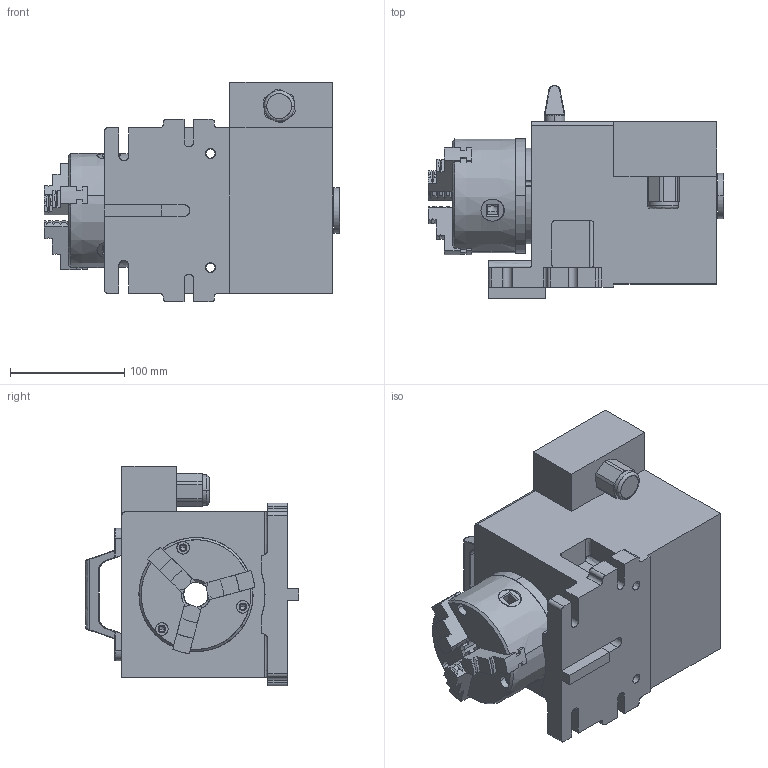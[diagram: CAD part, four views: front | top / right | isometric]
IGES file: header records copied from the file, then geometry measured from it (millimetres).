
Start section: SolidWorks IGES file using analytic representation for surfaces
Global section: file name: C:\Tormach Vault\Accesories\100mm 4th Axis\MicroArc_Simplified_Model.IGS; native system: SolidWorks 2016; preprocessor: SolidWorks 2016; author: cbailey; date: 210119.150043; units: millimetre
Bounding box: 258.58 x 187 x 192.5 mm (x, y, z)
Surface area: 273784.4 mm2 (no closed solid volume)
Topology: 0 solids, 0 shells, 467 faces, 10755 edges, 13293 vertices
Faces by surface type: bspline 290, revolution 177
